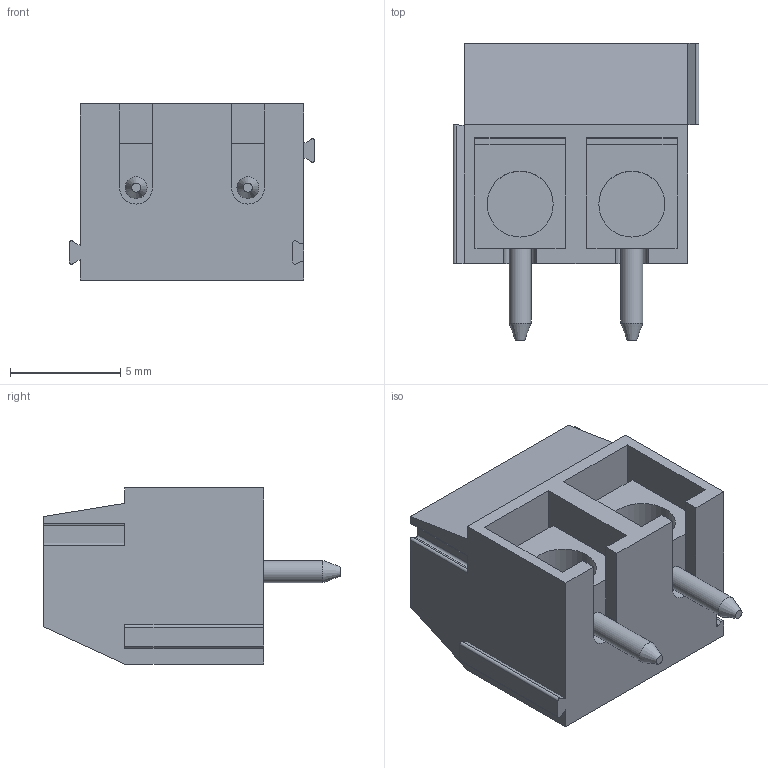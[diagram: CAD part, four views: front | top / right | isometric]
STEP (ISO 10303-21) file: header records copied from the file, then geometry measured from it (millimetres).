
FILE_DESCRIPTION( ( 'STEP AP214' ), '1' );
FILE_NAME( 'p:/temp/worker_152/temp/app_42_02019031308033540125920192d056f_000000_00_00_000000/format_1/PM 5.08_02_90 3.5SN BK BX 1760510000.stp', '2019-03-13T07:03:35', ( '' ), ( '' ), ' ', 'PARTsolutions', ' ' );
FILE_SCHEMA( ( 'AUTOMOTIVE_DESIGN { 1 0 10303 214 1 1 1 1 }' ) );
Length unit declared in the file: millimetre
Products named in the file (1): _PM 5.08/02/90 3.5SN BK BX 1760510000
Bounding box: 11.16 x 13.5 x 8 mm (x, y, z)
Volume: 546.9 mm3; surface area: 808.9 mm2
Topology: 1 solids, 1 shells, 75 faces, 197 edges, 130 vertices
Faces by surface type: plane 53, cylinder 20, cone 2
Full cylindrical faces by diameter (mm): 1 x2, 3 x2, 4.1 x2
Entity records: 2859 total; most frequent: CARTESIAN_POINT 391, DIRECTION 381, ORIENTED_EDGE 374, EDGE_CURVE 187, LINE 145, VECTOR 145, VERTEX_POINT 128, AXIS2_PLACEMENT_3D 118
